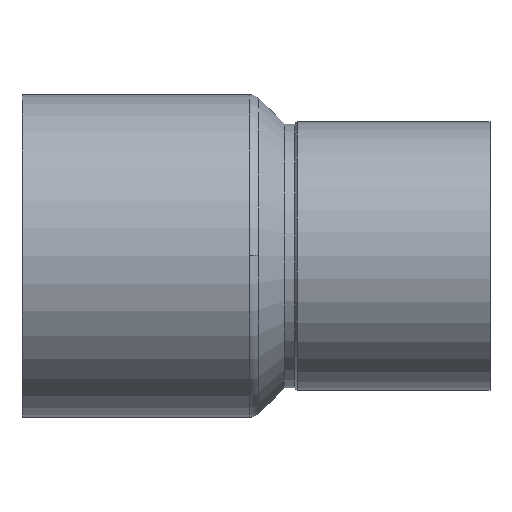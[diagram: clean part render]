
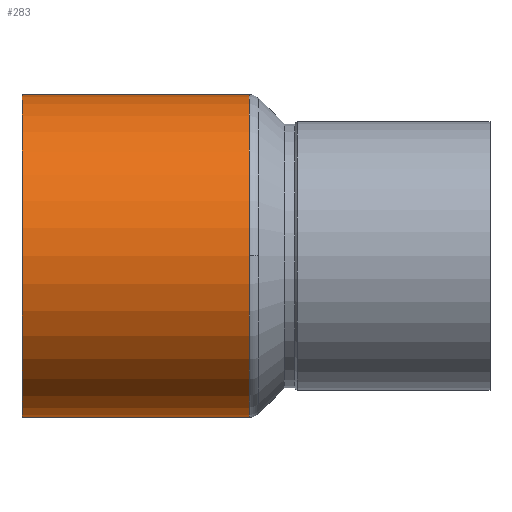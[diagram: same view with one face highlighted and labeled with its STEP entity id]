
A CAD part, top view. The second image highlights one B-rep face of the part: STEP entity #283.
In plain terms, the highlighted cylindrical face has radius 12.065 mm (diameter 24.13 mm), a partial arc.
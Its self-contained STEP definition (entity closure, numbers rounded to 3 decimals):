
#207=CARTESIAN_POINT('',(17.,12.065,0.0));
#208=VERTEX_POINT('',#207);
#216=CARTESIAN_POINT('',(17.,0.,12.065));
#217=VERTEX_POINT('',#216);
#218=CARTESIAN_POINT('',(17.,0.0,0.0));
#219=DIRECTION('',(1.0,0.0,0.0));
#220=DIRECTION('',(0.0,1.0,0.0));
#221=AXIS2_PLACEMENT_3D('',#218,#219,#220);
#222=CIRCLE('',#221,12.065);
#223=EDGE_CURVE('',#208,#217,#222,.T.);
#243=CARTESIAN_POINT('',(8.5,0.0,0.0));
#244=DIRECTION('',(1.0,0.0,0.0));
#245=DIRECTION('',(0.0,1.0,0.0));
#246=AXIS2_PLACEMENT_3D('',#243,#244,#245);
#247=CYLINDRICAL_SURFACE('',#246,12.065);
#248=CARTESIAN_POINT('',(0.0,12.065,0.0));
#249=VERTEX_POINT('',#248);
#250=CARTESIAN_POINT('',(0.0,12.065,0.0));
#251=DIRECTION('',(1.0,0.0,0.0));
#252=VECTOR('',#251,17.);
#253=LINE('',#250,#252);
#254=EDGE_CURVE('',#249,#208,#253,.T.);
#255=ORIENTED_EDGE('',*,*,#254,.F.);
#256=CARTESIAN_POINT('',(0.0,-12.065,0.));
#257=VERTEX_POINT('',#256);
#258=CARTESIAN_POINT('',(0.0,0.0,0.0));
#259=DIRECTION('',(1.0,0.0,0.0));
#260=DIRECTION('',(0.0,1.0,0.0));
#261=AXIS2_PLACEMENT_3D('',#258,#259,#260);
#262=CIRCLE('',#261,12.065);
#263=EDGE_CURVE('',#249,#257,#262,.T.);
#264=ORIENTED_EDGE('',*,*,#263,.T.);
#265=CARTESIAN_POINT('',(17.,-12.065,0.));
#266=VERTEX_POINT('',#265);
#267=CARTESIAN_POINT('',(17.,-12.065,0.));
#268=DIRECTION('',(-1.0,0.0,0.0));
#269=VECTOR('',#268,17.);
#270=LINE('',#267,#269);
#271=EDGE_CURVE('',#266,#257,#270,.T.);
#272=ORIENTED_EDGE('',*,*,#271,.F.);
#273=CARTESIAN_POINT('',(17.,0.0,0.0));
#274=DIRECTION('',(1.0,0.0,0.0));
#275=DIRECTION('',(0.0,1.0,0.0));
#276=AXIS2_PLACEMENT_3D('',#273,#274,#275);
#277=CIRCLE('',#276,12.065);
#278=EDGE_CURVE('',#217,#266,#277,.T.);
#279=ORIENTED_EDGE('',*,*,#278,.F.);
#280=ORIENTED_EDGE('',*,*,#223,.F.);
#281=EDGE_LOOP('',(#255,#264,#272,#279,#280));
#282=FACE_OUTER_BOUND('',#281,.T.);
#283=ADVANCED_FACE('',(#282),#247,.T.);
